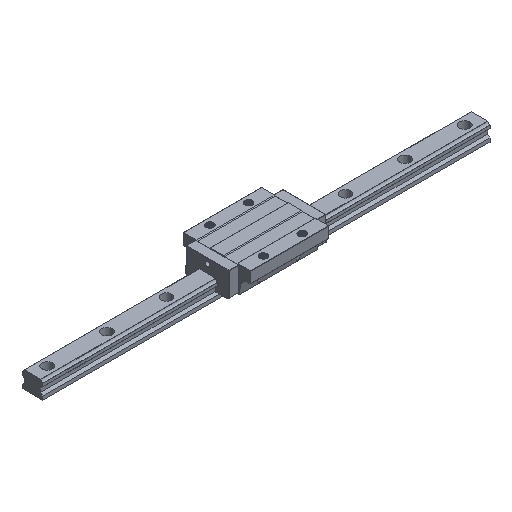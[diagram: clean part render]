
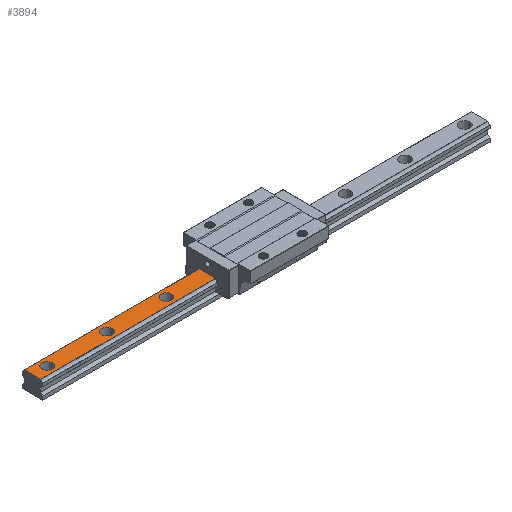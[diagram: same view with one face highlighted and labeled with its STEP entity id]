
A CAD part, isometric view. The second image highlights one B-rep face of the part: STEP entity #3894.
In plain terms, the highlighted planar face has unit normal (0, 0, 1).
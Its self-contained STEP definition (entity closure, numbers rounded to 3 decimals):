
#13 = AXIS2_PLACEMENT_3D ( 'NONE', #11115, #11301, #1190 ) ;
#36 = LINE ( 'NONE', #11829, #16689 ) ;
#172 = CARTESIAN_POINT ( 'NONE',  ( -273., 0., 23. ) ) ;
#217 = VERTEX_POINT ( 'NONE', #17079 ) ;
#345 = FACE_BOUND ( 'NONE', #1954, .T. ) ;
#905 = CIRCLE ( 'NONE', #13, 7. ) ;
#1004 = EDGE_LOOP ( 'NONE', ( #3061, #5681 ) ) ;
#1190 = DIRECTION ( 'NONE',  ( -1., 0., 0. ) ) ;
#1404 = CARTESIAN_POINT ( 'NONE',  ( -200., 0., 23. ) ) ;
#1472 = DIRECTION ( 'NONE',  ( -1., 0., 0. ) ) ;
#1545 = EDGE_CURVE ( 'NONE', #2456, #8674, #7286, .T. ) ;
#1673 = EDGE_CURVE ( 'NONE', #6903, #2914, #8575, .T. ) ;
#1861 = VECTOR ( 'NONE', #2862, 1000. ) ;
#1910 = EDGE_CURVE ( 'NONE', #8674, #217, #12793, .T. ) ;
#1954 = EDGE_LOOP ( 'NONE', ( #5923, #7062 ) ) ;
#2033 = AXIS2_PLACEMENT_3D ( 'NONE', #4652, #12792, #14182 ) ;
#2456 = VERTEX_POINT ( 'NONE', #11605 ) ;
#2517 = VERTEX_POINT ( 'NONE', #3076 ) ;
#2779 = VERTEX_POINT ( 'NONE', #5773 ) ;
#2862 = DIRECTION ( 'NONE',  ( 1., 0., 0. ) ) ;
#2914 = VERTEX_POINT ( 'NONE', #3875 ) ;
#3061 = ORIENTED_EDGE ( 'NONE', *, *, #13753, .T. ) ;
#3073 = CARTESIAN_POINT ( 'NONE',  ( -300., 0., 23. ) ) ;
#3076 = CARTESIAN_POINT ( 'NONE',  ( -193., 0., 23. ) ) ;
#3237 = PLANE ( 'NONE',  #2033 ) ;
#3631 = DIRECTION ( 'NONE',  ( -1., 0., 0. ) ) ;
#3715 = CARTESIAN_POINT ( 'NONE',  ( -280., 0., 23. ) ) ;
#3875 = CARTESIAN_POINT ( 'NONE',  ( -287., 0., 23. ) ) ;
#3894 = ADVANCED_FACE ( 'NONE', ( #345, #9983, #14277, #14367 ), #3237, .F. ) ;
#3971 = ORIENTED_EDGE ( 'NONE', *, *, #1545, .T. ) ;
#4367 = VECTOR ( 'NONE', #1472, 1000. ) ;
#4652 = CARTESIAN_POINT ( 'NONE',  ( 300., 0., 23. ) ) ;
#5596 = VERTEX_POINT ( 'NONE', #9077 ) ;
#5681 = ORIENTED_EDGE ( 'NONE', *, *, #8973, .T. ) ;
#5755 = AXIS2_PLACEMENT_3D ( 'NONE', #17854, #9066, #3631 ) ;
#5773 = CARTESIAN_POINT ( 'NONE',  ( -65.2, 11.035, 23. ) ) ;
#5923 = ORIENTED_EDGE ( 'NONE', *, *, #6954, .T. ) ;
#6519 = CARTESIAN_POINT ( 'NONE',  ( -120., 0., 23. ) ) ;
#6527 = DIRECTION ( 'NONE',  ( -1., 0., 0. ) ) ;
#6758 = DIRECTION ( 'NONE',  ( 0., 0., -1. ) ) ;
#6903 = VERTEX_POINT ( 'NONE', #172 ) ;
#6954 = EDGE_CURVE ( 'NONE', #2914, #6903, #9764, .T. ) ;
#7062 = ORIENTED_EDGE ( 'NONE', *, *, #1673, .T. ) ;
#7286 = LINE ( 'NONE', #3073, #11872 ) ;
#7368 = CIRCLE ( 'NONE', #12448, 7. ) ;
#7938 = ORIENTED_EDGE ( 'NONE', *, *, #8515, .F. ) ;
#8164 = DIRECTION ( 'NONE',  ( -1., 0., 0. ) ) ;
#8404 = CARTESIAN_POINT ( 'NONE',  ( -113., 0., 23. ) ) ;
#8515 = EDGE_CURVE ( 'NONE', #2779, #217, #36, .T. ) ;
#8575 = CIRCLE ( 'NONE', #5755, 7. ) ;
#8674 = VERTEX_POINT ( 'NONE', #14313 ) ;
#8973 = EDGE_CURVE ( 'NONE', #16098, #16264, #12812, .T. ) ;
#9062 = AXIS2_PLACEMENT_3D ( 'NONE', #14954, #6758, #8164 ) ;
#9066 = DIRECTION ( 'NONE',  ( 0., 0., -1. ) ) ;
#9077 = CARTESIAN_POINT ( 'NONE',  ( -207., 0., 23. ) ) ;
#9151 = DIRECTION ( 'NONE',  ( 0., 0., -1. ) ) ;
#9432 = EDGE_CURVE ( 'NONE', #5596, #2517, #905, .T. ) ;
#9433 = EDGE_LOOP ( 'NONE', ( #18366, #7938, #12385, #3971 ) ) ;
#9763 = ORIENTED_EDGE ( 'NONE', *, *, #15065, .T. ) ;
#9764 = CIRCLE ( 'NONE', #14547, 7. ) ;
#9956 = DIRECTION ( 'NONE',  ( 0., -1., 0. ) ) ;
#9983 = FACE_BOUND ( 'NONE', #14476, .T. ) ;
#10118 = DIRECTION ( 'NONE',  ( -1., 0., 0. ) ) ;
#10188 = CARTESIAN_POINT ( 'NONE',  ( -127., 0., 23. ) ) ;
#10265 = CIRCLE ( 'NONE', #9062, 7. ) ;
#11115 = CARTESIAN_POINT ( 'NONE',  ( -200., 0., 23. ) ) ;
#11301 = DIRECTION ( 'NONE',  ( 0., 0., -1. ) ) ;
#11386 = CARTESIAN_POINT ( 'NONE',  ( 300., -11.035, 23. ) ) ;
#11605 = CARTESIAN_POINT ( 'NONE',  ( -300., 11.035, 23. ) ) ;
#11685 = LINE ( 'NONE', #12710, #4367 ) ;
#11829 = CARTESIAN_POINT ( 'NONE',  ( -65.2, -11.035, 23. ) ) ;
#11872 = VECTOR ( 'NONE', #14485, 1000. ) ;
#12385 = ORIENTED_EDGE ( 'NONE', *, *, #14396, .T. ) ;
#12448 = AXIS2_PLACEMENT_3D ( 'NONE', #1404, #17504, #10118 ) ;
#12710 = CARTESIAN_POINT ( 'NONE',  ( 300., 11.035, 23. ) ) ;
#12792 = DIRECTION ( 'NONE',  ( 0., 0., -1. ) ) ;
#12793 = LINE ( 'NONE', #11386, #1861 ) ;
#12812 = CIRCLE ( 'NONE', #16991, 7. ) ;
#13753 = EDGE_CURVE ( 'NONE', #16264, #16098, #10265, .T. ) ;
#14182 = DIRECTION ( 'NONE',  ( 0., -1., 0. ) ) ;
#14277 = FACE_BOUND ( 'NONE', #1004, .T. ) ;
#14313 = CARTESIAN_POINT ( 'NONE',  ( -300., -11.035, 23. ) ) ;
#14367 = FACE_OUTER_BOUND ( 'NONE', #9433, .T. ) ;
#14396 = EDGE_CURVE ( 'NONE', #2779, #2456, #11685, .T. ) ;
#14476 = EDGE_LOOP ( 'NONE', ( #14875, #9763 ) ) ;
#14485 = DIRECTION ( 'NONE',  ( 0., -1., 0. ) ) ;
#14547 = AXIS2_PLACEMENT_3D ( 'NONE', #3715, #9151, #6527 ) ;
#14875 = ORIENTED_EDGE ( 'NONE', *, *, #9432, .T. ) ;
#14954 = CARTESIAN_POINT ( 'NONE',  ( -120., 0., 23. ) ) ;
#15065 = EDGE_CURVE ( 'NONE', #2517, #5596, #7368, .T. ) ;
#15124 = DIRECTION ( 'NONE',  ( -1., 0., 0. ) ) ;
#16098 = VERTEX_POINT ( 'NONE', #8404 ) ;
#16264 = VERTEX_POINT ( 'NONE', #10188 ) ;
#16689 = VECTOR ( 'NONE', #9956, 1000. ) ;
#16991 = AXIS2_PLACEMENT_3D ( 'NONE', #6519, #17924, #15124 ) ;
#17079 = CARTESIAN_POINT ( 'NONE',  ( -65.2, -11.035, 23. ) ) ;
#17504 = DIRECTION ( 'NONE',  ( 0., 0., -1. ) ) ;
#17854 = CARTESIAN_POINT ( 'NONE',  ( -280., 0., 23. ) ) ;
#17924 = DIRECTION ( 'NONE',  ( 0., 0., -1. ) ) ;
#18366 = ORIENTED_EDGE ( 'NONE', *, *, #1910, .T. ) ;
